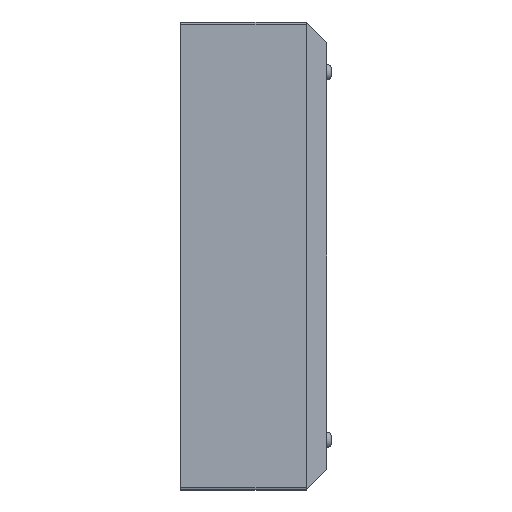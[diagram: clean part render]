
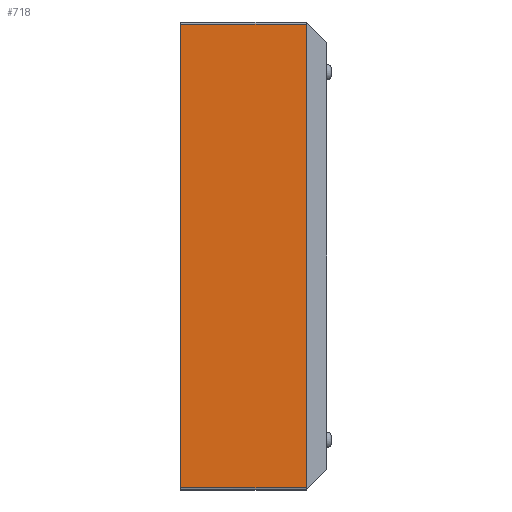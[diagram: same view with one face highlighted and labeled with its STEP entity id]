
A CAD part, left-side view. The second image highlights one B-rep face of the part: STEP entity #718.
In plain terms, the highlighted planar face has unit normal (-1, 0, 0).
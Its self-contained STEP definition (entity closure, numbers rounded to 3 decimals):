
#68 = ORIENTED_EDGE ( 'NONE', *, *, #1672, .T. ) ;
#112 = CARTESIAN_POINT ( 'NONE',  ( -100., -30., 56.1 ) ) ;
#473 = EDGE_CURVE ( 'NONE', #1645, #3526, #2114, .T. ) ;
#474 = ORIENTED_EDGE ( 'NONE', *, *, #1230, .T. ) ;
#491 = DIRECTION ( 'NONE',  ( 0., -1., 0. ) ) ;
#690 = VECTOR ( 'NONE', #721, 1000. ) ;
#718 = ADVANCED_FACE ( 'NONE', ( #2221 ), #2085, .T. ) ;
#721 = DIRECTION ( 'NONE',  ( 0., 0., 1. ) ) ;
#935 = CARTESIAN_POINT ( 'NONE',  ( -100., -35., -56.1 ) ) ;
#1010 = CARTESIAN_POINT ( 'NONE',  ( -100., 0., -56.1 ) ) ;
#1067 = ORIENTED_EDGE ( 'NONE', *, *, #2288, .F. ) ;
#1230 = EDGE_CURVE ( 'NONE', #3526, #3495, #3151, .T. ) ;
#1247 = VECTOR ( 'NONE', #491, 1000. ) ;
#1301 = CARTESIAN_POINT ( 'NONE',  ( -100., -35., -55.6 ) ) ;
#1379 = LINE ( 'NONE', #1301, #1247 ) ;
#1480 = CARTESIAN_POINT ( 'NONE',  ( -100., -30., -55.6 ) ) ;
#1511 = LINE ( 'NONE', #1010, #1559 ) ;
#1559 = VECTOR ( 'NONE', #2128, 1000. ) ;
#1645 = VERTEX_POINT ( 'NONE', #1480 ) ;
#1672 = EDGE_CURVE ( 'NONE', #3405, #1645, #1379, .T. ) ;
#1710 = CARTESIAN_POINT ( 'NONE',  ( -100., 0., 55.6 ) ) ;
#1978 = EDGE_LOOP ( 'NONE', ( #1067, #68, #2558, #474 ) ) ;
#2007 = CARTESIAN_POINT ( 'NONE',  ( -100., -30., 55.6 ) ) ;
#2085 = PLANE ( 'NONE',  #3227 ) ;
#2114 = LINE ( 'NONE', #112, #690 ) ;
#2128 = DIRECTION ( 'NONE',  ( 0., 0., 1. ) ) ;
#2221 = FACE_OUTER_BOUND ( 'NONE', #1978, .T. ) ;
#2288 = EDGE_CURVE ( 'NONE', #3405, #3495, #1511, .T. ) ;
#2398 = DIRECTION ( 'NONE',  ( 0., 0., 1. ) ) ;
#2433 = DIRECTION ( 'NONE',  ( -1., 0., 0. ) ) ;
#2558 = ORIENTED_EDGE ( 'NONE', *, *, #473, .T. ) ;
#2585 = CARTESIAN_POINT ( 'NONE',  ( -100., 0., -55.6 ) ) ;
#2812 = DIRECTION ( 'NONE',  ( 0., 1., 0. ) ) ;
#3151 = LINE ( 'NONE', #3353, #3426 ) ;
#3227 = AXIS2_PLACEMENT_3D ( 'NONE', #935, #2433, #2398 ) ;
#3353 = CARTESIAN_POINT ( 'NONE',  ( -100., -35., 55.6 ) ) ;
#3405 = VERTEX_POINT ( 'NONE', #2585 ) ;
#3426 = VECTOR ( 'NONE', #2812, 1000. ) ;
#3495 = VERTEX_POINT ( 'NONE', #1710 ) ;
#3526 = VERTEX_POINT ( 'NONE', #2007 ) ;
